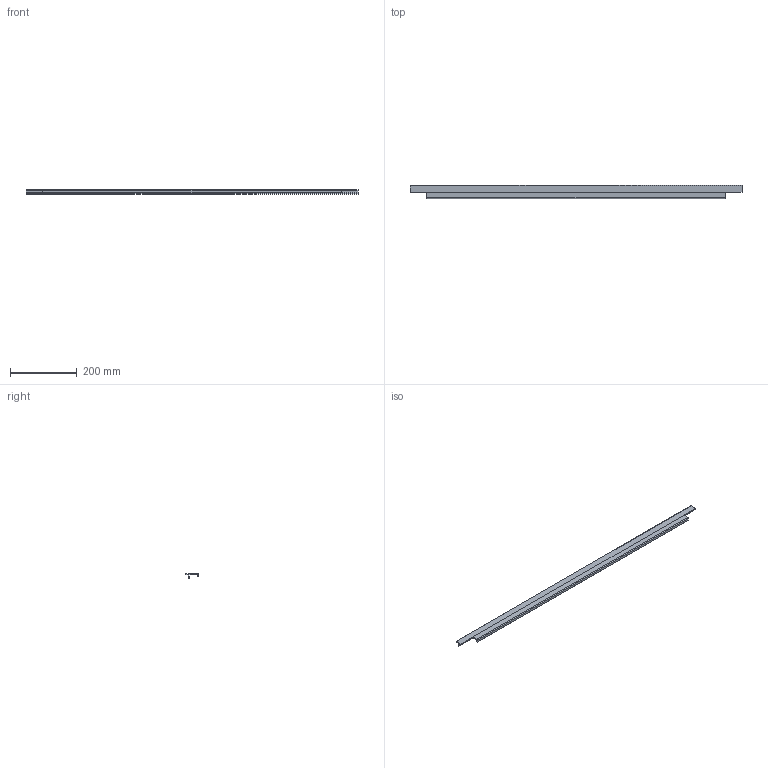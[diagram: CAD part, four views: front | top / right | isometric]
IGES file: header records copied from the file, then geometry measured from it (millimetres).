
Start section: Data from Parasolid IGES Translator 15.0.47, Copyright(c) 2006 Siemens P LM Software. All Rights Reserved.
Global section: file name: 9105825.igs; native system:  By UGS Corp.; preprocessor: XPlus GENERIC/IGES 3.0; author: Noname; organization: Noname; date: 20140122.180102; units: millimetre
Bounding box: 995 x 39 x 14 mm (x, y, z)
Surface area: 112111.1 mm2 (no closed solid volume)
Topology: 0 solids, 0 shells, 40 faces, 224 edges, 224 vertices
Faces by surface type: extrusion 30, revolution 10
